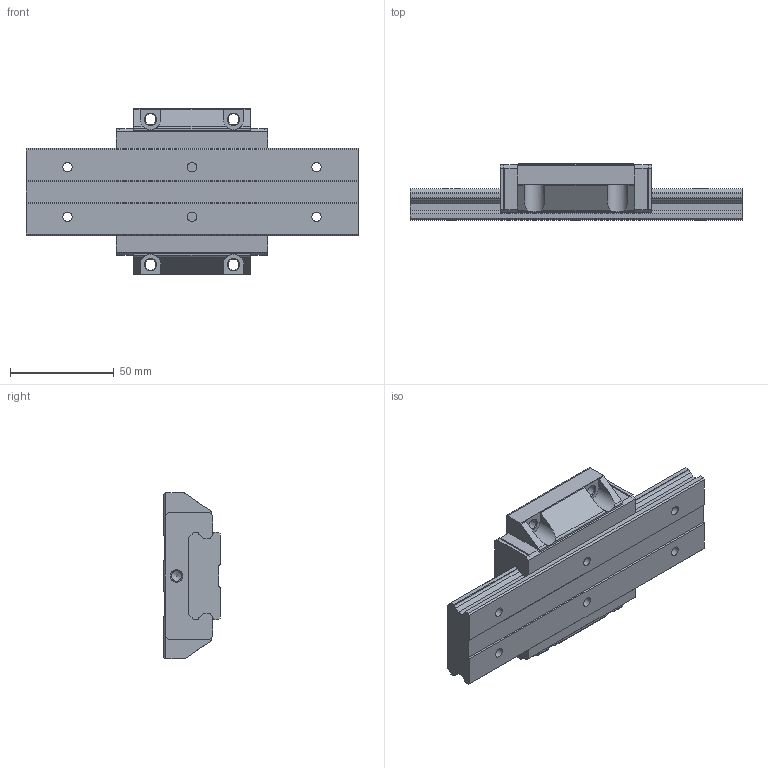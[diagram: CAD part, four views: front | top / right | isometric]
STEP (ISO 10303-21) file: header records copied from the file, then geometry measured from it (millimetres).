
FILE_DESCRIPTION(/* description */ ('STEP AP203'),/* implementation_level */ '2;1');
FILE_NAME(/* name */ 'SHW27CA1SS-160L_G20_0_Without_grease_nipple_43-6_0_0_01',/* time_stamp */ '2024-05-13T09:23:17+02:00',/* author */ ('License CC BY-ND 4.0'),/* organization */ ('CADENAS'),/* preprocessor_version */ 'ST-DEVELOPER v19.3',/* originating_system */ 'PARTsolutions',/* authorisation */ ' ');
FILE_SCHEMA (('CONFIG_CONTROL_DESIGN'));
Length unit declared in the file: millimetre
Products named in the file (4): SHW27CA1SS-160L_G20_0_Without_grease_nipple_43-6_0_0_01; SHW27CA16020 Track; SHW27CASS1 Slide12-50; -SHW_grease_nipple_joint
Assembly tree (3 placements, depth 2):
  SHW27CA1SS-160L_G20_0_Without_grease_nipple_43-6_0_0_01
    SHW27CA16020 Track
    SHW27CASS1 Slide12-50
    -SHW_grease_nipple_joint
Bounding box: 160 x 27 x 80 mm (x, y, z)
Volume: 172038.2 mm3; surface area: 41457.9 mm2
Topology: 2 solids, 2 shells, 188 faces, 519 edges, 342 vertices
Faces by surface type: plane 124, cylinder 48, cone 16
Full cylindrical faces by diameter (mm): 4.5 x6, 4.917 x2, 5.3 x6, 7.5 x6
Entity records: 5848 total; most frequent: CARTESIAN_POINT 1021, DIRECTION 970, ORIENTED_EDGE 944, EDGE_CURVE 472, LINE 342, VECTOR 342, VERTEX_POINT 332, AXIS2_PLACEMENT_3D 314
